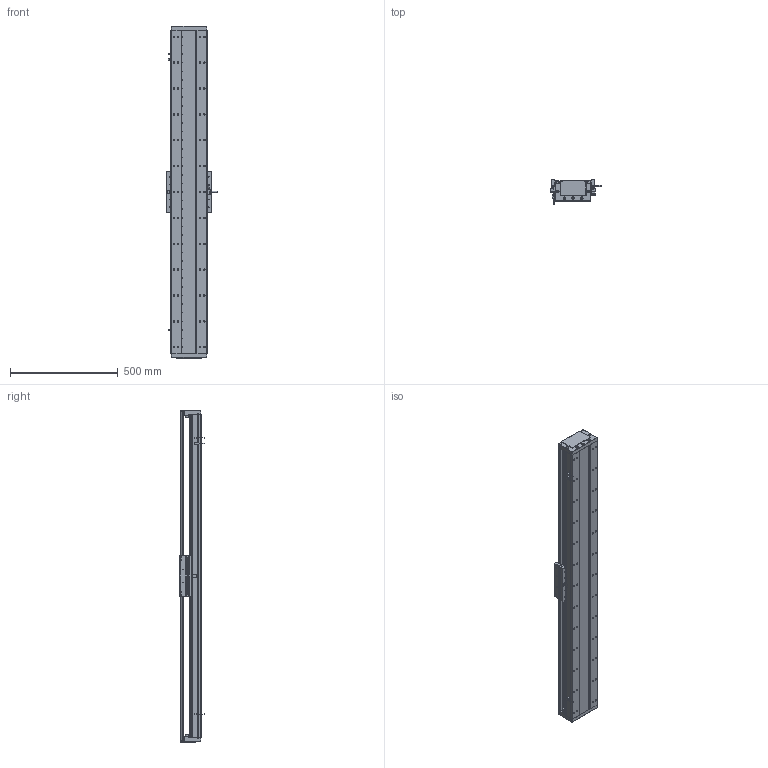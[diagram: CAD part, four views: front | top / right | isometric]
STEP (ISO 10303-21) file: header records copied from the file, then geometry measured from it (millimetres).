
FILE_DESCRIPTION (( 'STEP AP203' ), '1' );
FILE_NAME ('DA-C165-C2-T1260-C010-0.2 直线电机.STEP', '2023-05-11T07:35:49', ( '微软用户' ), ( '微软中国' ), 'SwSTEP 2.0', 'SolidWorks 2019', '' );
FILE_SCHEMA (( 'CONFIG_CONTROL_DESIGN' ));
Length unit declared in the file: millimetre
Products named in the file (15): 复件 DA165-GYP-00 光电感应片^DA-C165-C2-T-C010-0.2-N 直线电机; 复件 六角薄螺母 M3^DA-C165-C2-T-C010-0.2-N 直线电机_GB_FASTENER_NUT_STNAB M3-C; 复件 CKM02-W075-C1C2-TP-3.0 一体电机-C2^DA-C165-C2-T-C010-0.2-N 直线电机; IU-CU165-L 菁釱絳寢; 葩璃 DA95-GT-T-00^IU-CU165-L 菁釱絳寢_T; 复件 DMA-010-0.2 读数头^DA-C165-C2-T-C010-0.2-N 直线电机; 葩璃 CKM01-W075-TRL^DA-C165-C2-T-C010-0.2-N 眻盄萇儂; 珨极趙賑雄怢啣wf-C2; 复件 DA165-T-002-00 盖板^DA-C165-C2-T-C010-0.2-N 直线电机_0840-002-00; 复件 XD-U-02L 磁栅尺^DA-C165-C2-T-C010-0.2-N 直线电机_T; DA-C165-C2-T1260-C010-0.2 眻盄萇儂; 葩璃 PM-T45^DA-C165-C2-T-C010-0.2-N 眻盄萇儂; IU-CU165-L-00 菁釱_L1500; 复件 DA95-HXJ-00 缓冲橡胶^DA-C165-C2-T-C010-0.2-N 直线电机; 复件 DA165-DG-H-N-00 端盖^DA-C165-C2-T-C010-0.2-N 直线电机
Assembly tree (28 placements, depth 3):
  DA-C165-C2-T1260-C010-0.2 眻盄萇儂
    IU-CU165-L 菁釱絳寢
      IU-CU165-L-00 菁釱_L1500
      葩璃 DA95-GT-T-00^IU-CU165-L 菁釱絳寢_T  x4
    复件 DA165-DG-H-N-00 端盖^DA-C165-C2-T-C010-0.2-N 直线电机  x2
    复件 DA95-HXJ-00 缓冲橡胶^DA-C165-C2-T-C010-0.2-N 直线电机  x4
    复件 DA165-T-002-00 盖板^DA-C165-C2-T-C010-0.2-N 直线电机_0840-002-00
    复件 XD-U-02L 磁栅尺^DA-C165-C2-T-C010-0.2-N 直线电机_T
    葩璃 PM-T45^DA-C165-C2-T-C010-0.2-N 眻盄萇儂  x3
    葩璃 CKM01-W075-TRL^DA-C165-C2-T-C010-0.2-N 眻盄萇儂
    复件 DA165-GYP-00 光电感应片^DA-C165-C2-T-C010-0.2-N 直线电机
    复件 DMA-010-0.2 读数头^DA-C165-C2-T-C010-0.2-N 直线电机
    复件 CKM02-W075-C1C2-TP-3.0 一体电机-C2^DA-C165-C2-T-C010-0.2-N 直线电机
    复件 六角薄螺母 M3^DA-C165-C2-T-C010-0.2-N 直线电机_GB_FASTENER_NUT_STNAB M3-C  x6
    珨极趙賑雄怢啣wf-C2
Bounding box: 233 x 111.45 x 1540 mm (x, y, z)
Volume: 10384801.6 mm3; surface area: 2923953.3 mm2
Topology: 66 solids, 66 shells, 3324 faces, 9370 edges, 5923 vertices
Faces by surface type: cylinder 1783, plane 1077, cone 406, torus 54, sphere 4
Entity records: 105173 total; most frequent: CARTESIAN_POINT 26156, ORIENTED_EDGE 16214, DIRECTION 16148, EDGE_CURVE 8107, AXIS2_PLACEMENT_3D 6095, VERTEX_POINT 5259, LINE 3958, VECTOR 3958
